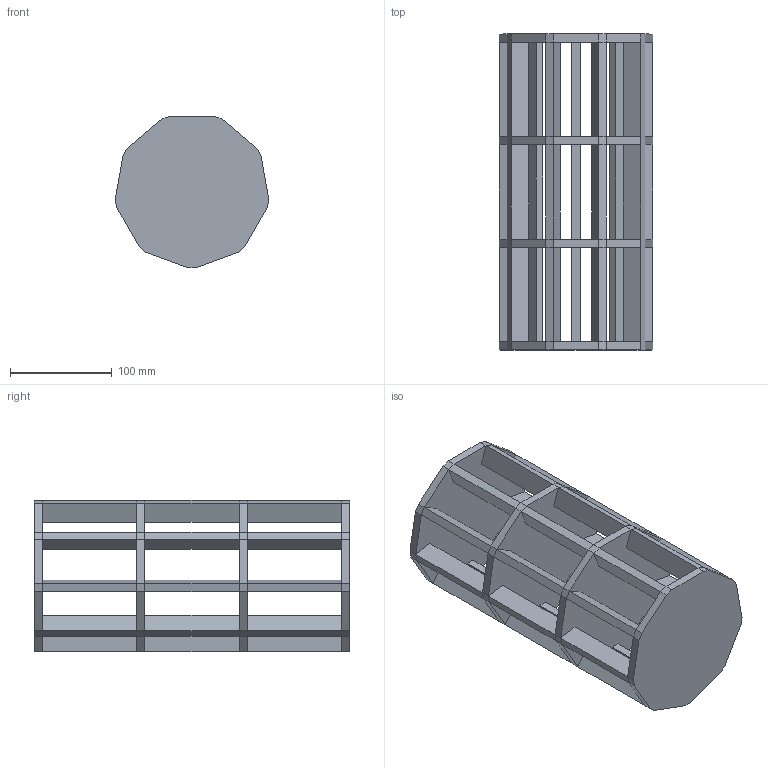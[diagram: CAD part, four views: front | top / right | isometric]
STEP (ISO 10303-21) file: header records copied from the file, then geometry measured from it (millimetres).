
FILE_DESCRIPTION (( 'STEP AP203' ), '1' );
FILE_NAME ('HAKU MINI Y.STEP', '2023-06-29T10:04:57', ( '' ), ( '' ), 'SwSTEP 2.0', 'SolidWorks 2023', '' );
FILE_SCHEMA (( 'CONFIG_CONTROL_DESIGN' ));
Length unit declared in the file: millimetre
Products named in the file (2): HAKU MINI Y; Group1^HAKU MINI Y
Assembly tree (1 placements, depth 2):
  HAKU MINI Y
    Group1^HAKU MINI Y
Bounding box: 151.17 x 311 x 148.87 mm (x, y, z)
Volume: 956036.1 mm3; surface area: 285665 mm2
Topology: 1 solids, 1 shells, 188 faces, 486 edges, 252 vertices
Faces by surface type: plane 188
Entity records: 5614 total; most frequent: ORIENTED_EDGE 972, CARTESIAN_POINT 930, DIRECTION 870, VECTOR 486, EDGE_CURVE 486, LINE 486, VERTEX_POINT 252, AXIS2_PLACEMENT_3D 192
